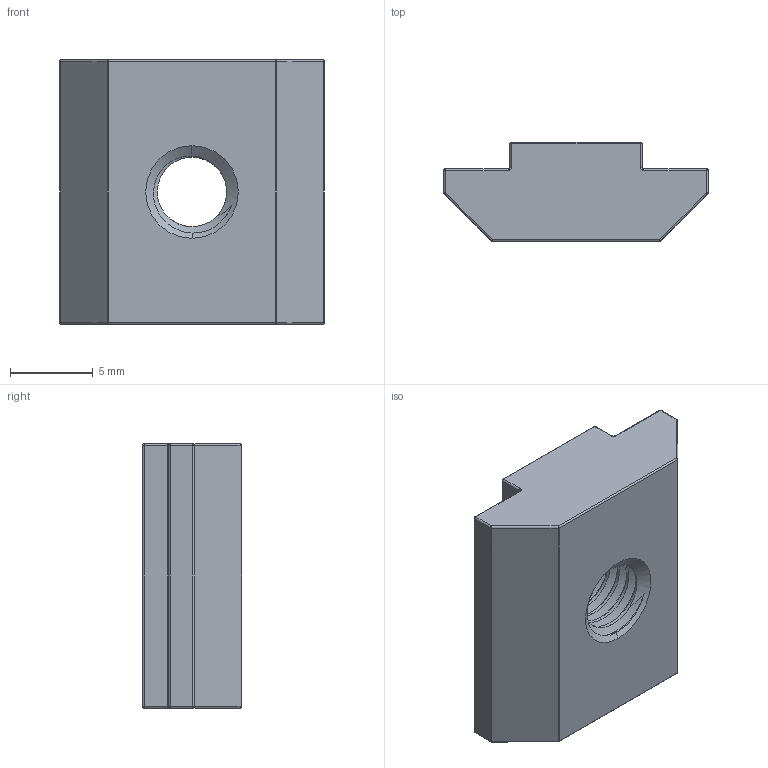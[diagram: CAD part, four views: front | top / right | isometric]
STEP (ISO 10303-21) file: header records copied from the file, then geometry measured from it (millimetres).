
FILE_DESCRIPTION (( 'STEP AP203' ), '1' );
FILE_NAME ('TANLN-AL-30-M5.STEP', '2026-08-25T07:43:45', ( '' ), ( '' ), 'SwSTEP 2.0', 'SolidWorks 2020', '' );
FILE_SCHEMA (( 'CONFIG_CONTROL_DESIGN' ));
Length unit declared in the file: millimetre
Products named in the file (1): TANLN-AL-30-M5
Bounding box: 16 x 6 x 16 mm (x, y, z)
Volume: 1094 mm3; surface area: 886.4 mm2
Topology: 1 solids, 1 shells, 83 faces, 198 edges, 105 vertices
Faces by surface type: cylinder 44, sphere 16, plane 12, cone 4, torus 4, bspline 3
Entity records: 3949 total; most frequent: CARTESIAN_POINT 2105, DIRECTION 381, ORIENTED_EDGE 372, EDGE_CURVE 186, AXIS2_PLACEMENT_3D 152, VERTEX_POINT 105, EDGE_LOOP 85, ADVANCED_FACE 83
